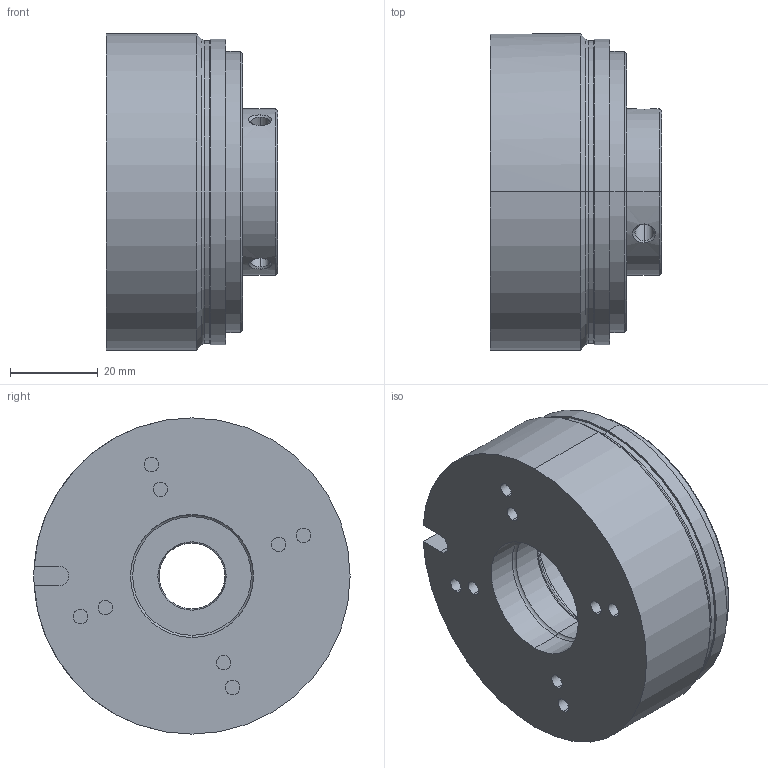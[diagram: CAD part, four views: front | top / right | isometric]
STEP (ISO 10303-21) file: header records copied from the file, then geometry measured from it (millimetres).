
FILE_DESCRIPTION (( 'STEP AP214' ), '1' );
FILE_NAME ('86_61107K00_Bohrung Ø15H7.STEP', '2019-05-20T07:36:31', ( '' ), ( '' ), 'SwSTEP 2.0', 'SolidWorks 2018', '' );
FILE_SCHEMA (( 'AUTOMOTIVE_DESIGN' ));
Length unit declared in the file: millimetre
Products named in the file (1): 86_61107K00_Bohrung Ø15H7
Bounding box: 39 x 72 x 72 mm (x, y, z)
Volume: 107350.3 mm3; surface area: 25726.4 mm2
Topology: 2 solids, 2 shells, 94 faces, 198 edges, 122 vertices
Faces by surface type: cylinder 47, plane 21, cone 20, torus 6
Entity records: 3169 total; most frequent: CARTESIAN_POINT 769, DIRECTION 488, ORIENTED_EDGE 396, AXIS2_PLACEMENT_3D 207, EDGE_CURVE 198, VERTEX_POINT 122, EDGE_LOOP 118, CIRCLE 112
